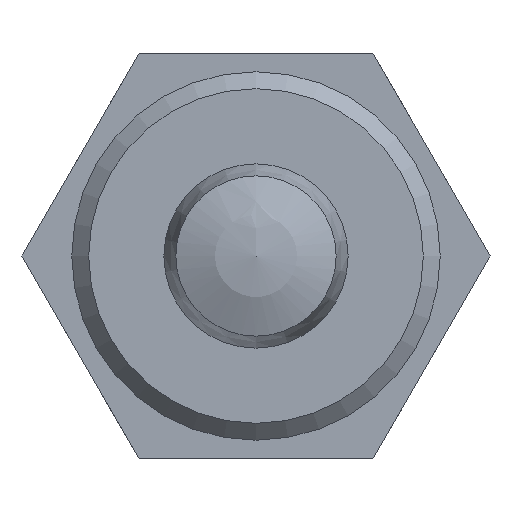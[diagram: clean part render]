
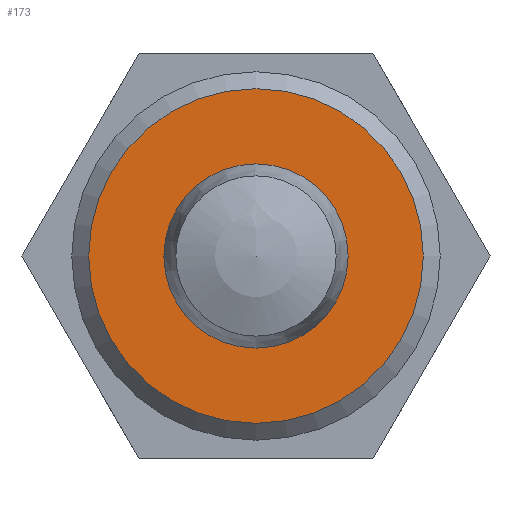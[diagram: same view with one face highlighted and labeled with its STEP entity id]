
A CAD part, front view. The second image highlights one B-rep face of the part: STEP entity #173.
In plain terms, the highlighted planar face has unit normal (0, -1, 0) as drawn and (-1, 0, 0) by its records, which use the part's own axes.
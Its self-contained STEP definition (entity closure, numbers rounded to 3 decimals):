
#173 = ADVANCED_FACE( '', ( #215, #216 ), #217, .T. );
#215 = FACE_BOUND( '', #302, .T. );
#216 = FACE_OUTER_BOUND( '', #303, .T. );
#217 = PLANE( '', #304 );
#302 = EDGE_LOOP( '', ( #405 ) );
#303 = EDGE_LOOP( '', ( #406 ) );
#304 = AXIS2_PLACEMENT_3D( '', #407, #408, #409 );
#405 = ORIENTED_EDGE( '', *, *, #588, .T. );
#406 = ORIENTED_EDGE( '', *, *, #580, .F. );
#407 = CARTESIAN_POINT( '', ( 0., 9.08, 0. ) );
#408 = DIRECTION( '', ( -1., 0., 0. ) );
#409 = DIRECTION( '', ( 0., 0., 1. ) );
#580 = EDGE_CURVE( '', #635, #635, #636, .T. );
#588 = EDGE_CURVE( '', #650, #650, #651, .T. );
#635 = VERTEX_POINT( '', #736 );
#636 = CIRCLE( '', #737, 9.08 );
#650 = VERTEX_POINT( '', #756 );
#651 = CIRCLE( '', #757, 5. );
#736 = CARTESIAN_POINT( '', ( 0., 0., -9.08 ) );
#737 = AXIS2_PLACEMENT_3D( '', #884, #885, #886 );
#756 = CARTESIAN_POINT( '', ( 0., 0., -5. ) );
#757 = AXIS2_PLACEMENT_3D( '', #898, #899, #900 );
#884 = CARTESIAN_POINT( '', ( 0., 0., 0. ) );
#885 = DIRECTION( '', ( 1., 0., 0. ) );
#886 = DIRECTION( '', ( 0., 0., -1. ) );
#898 = CARTESIAN_POINT( '', ( 0., 0., 0. ) );
#899 = DIRECTION( '', ( 1., 0., 0. ) );
#900 = DIRECTION( '', ( 0., 0., -1. ) );
